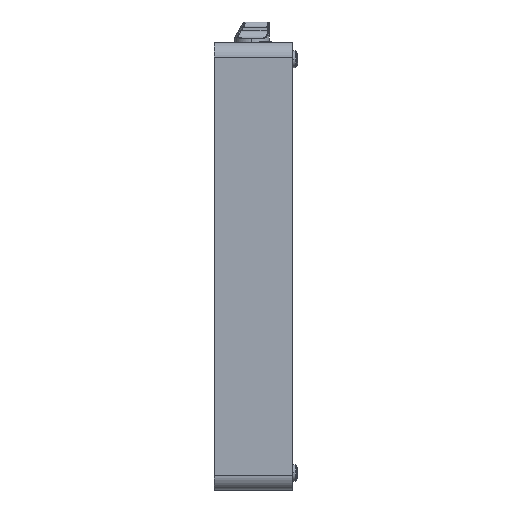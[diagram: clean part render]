
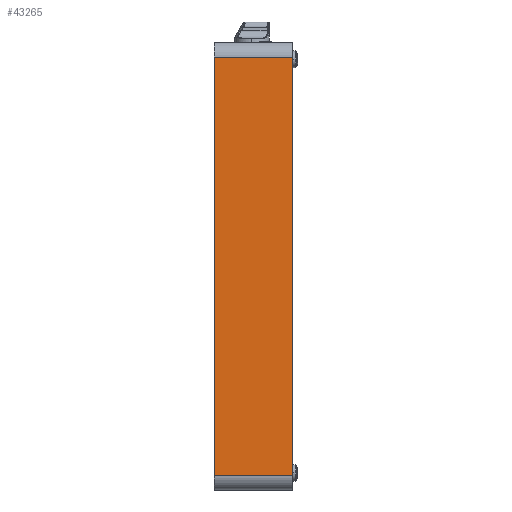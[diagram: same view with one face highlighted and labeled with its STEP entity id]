
A CAD part, left-side view. The second image highlights one B-rep face of the part: STEP entity #43265.
In plain terms, the highlighted planar face has unit normal (-1, 0, 0).
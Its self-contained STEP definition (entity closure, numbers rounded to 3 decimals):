
#18016 = VERTEX_POINT ( 'NONE', #37589 ) ;
#18017 = VERTEX_POINT ( 'NONE', #37588 ) ;
#18092 = VERTEX_POINT ( 'NONE', #37508 ) ;
#18098 = VERTEX_POINT ( 'NONE', #37503 ) ;
#27423 = DIRECTION ( 'NONE',  ( 0., 0., 1. ) ) ;
#27424 = CARTESIAN_POINT ( 'NONE',  ( -2047.263, -2117., -2424.768 ) ) ;
#27425 = LINE ( 'NONE', #27424, #46667 ) ;
#27492 = DIRECTION ( 'NONE',  ( 0., -1., 0. ) ) ;
#27493 = CARTESIAN_POINT ( 'NONE',  ( -2047.263, -2892.242, -2424.768 ) ) ;
#27494 = LINE ( 'NONE', #27493, #46816 ) ;
#27498 = DIRECTION ( 'NONE',  ( 0., 0., 1. ) ) ;
#27499 = CARTESIAN_POINT ( 'NONE',  ( -2047.263, -2000., -2424.768 ) ) ;
#27500 = LINE ( 'NONE', #27499, #46845 ) ;
#27501 = DIRECTION ( 'NONE',  ( 0., -1., 0. ) ) ;
#27502 = CARTESIAN_POINT ( 'NONE',  ( -2047.263, -2892.242, -1798.768 ) ) ;
#27503 = LINE ( 'NONE', #27502, #46865 ) ;
#29909 = EDGE_CURVE ( 'NONE', #18092, #18017, #27503, .T. ) ;
#29911 = EDGE_CURVE ( 'NONE', #18098, #18092, #27500, .T. ) ;
#29914 = EDGE_CURVE ( 'NONE', #18098, #18016, #27494, .T. ) ;
#29947 = EDGE_CURVE ( 'NONE', #18016, #18017, #27425, .T. ) ;
#37503 = CARTESIAN_POINT ( 'NONE',  ( -2047.263, -2000., -2424.768 ) ) ;
#37508 = CARTESIAN_POINT ( 'NONE',  ( -2047.263, -2000., -1798.768 ) ) ;
#37588 = CARTESIAN_POINT ( 'NONE',  ( -2047.263, -2117., -1798.768 ) ) ;
#37589 = CARTESIAN_POINT ( 'NONE',  ( -2047.263, -2117., -2424.768 ) ) ;
#37868 = ORIENTED_EDGE ( 'NONE', *, *, #29947, .T. ) ;
#37869 = ORIENTED_EDGE ( 'NONE', *, *, #29911, .F. ) ;
#37871 = ORIENTED_EDGE ( 'NONE', *, *, #29914, .T. ) ;
#37872 = ORIENTED_EDGE ( 'NONE', *, *, #29909, .F. ) ;
#43265 = ADVANCED_FACE ( 'NONE', ( #46368 ), #58738, .T. ) ;
#46368 = FACE_OUTER_BOUND ( 'NONE', #49189, .T. ) ;
#46514 = AXIS2_PLACEMENT_3D ( 'NONE', #58739, #58740, #58741 ) ;
#46667 = VECTOR ( 'NONE', #27423, 1000. ) ;
#46816 = VECTOR ( 'NONE', #27492, 1000. ) ;
#46845 = VECTOR ( 'NONE', #27498, 1000. ) ;
#46865 = VECTOR ( 'NONE', #27501, 1000. ) ;
#49189 = EDGE_LOOP ( 'NONE', ( #37872, #37869, #37871, #37868 ) ) ;
#58738 = PLANE ( 'NONE',  #46514 ) ;
#58739 = CARTESIAN_POINT ( 'NONE',  ( -2047.263, -2892.242, -2424.768 ) ) ;
#58740 = DIRECTION ( 'NONE',  ( -1., 0., 0. ) ) ;
#58741 = DIRECTION ( 'NONE',  ( 0., -1., 0. ) ) ;
